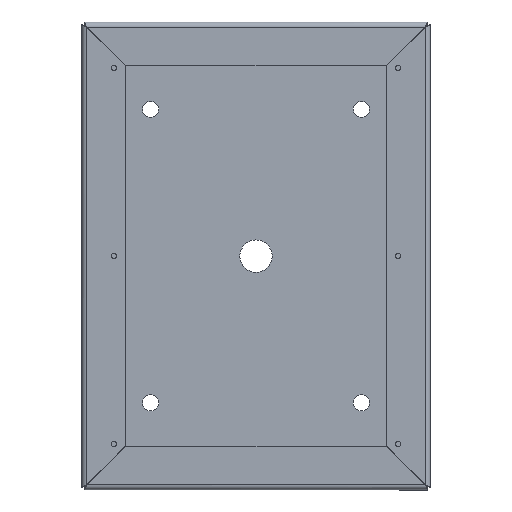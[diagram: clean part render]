
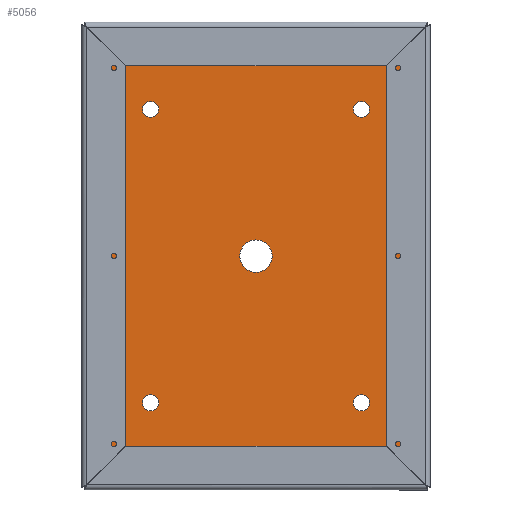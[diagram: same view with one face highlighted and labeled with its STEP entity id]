
A CAD part, top view. The second image highlights one B-rep face of the part: STEP entity #5056.
In plain terms, the highlighted planar face has unit normal (0, 0, 1).
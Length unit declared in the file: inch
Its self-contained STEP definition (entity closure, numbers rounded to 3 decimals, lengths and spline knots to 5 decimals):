
#50 = VERTEX_POINT ( 'NONE', #3202 ) ;
#94 = CARTESIAN_POINT ( 'NONE',  ( 0.44, 0., 0.0625 ) ) ;
#121 = AXIS2_PLACEMENT_3D ( 'NONE', #450, #939, #4766 ) ;
#172 = VERTEX_POINT ( 'NONE', #2390 ) ;
#174 = EDGE_LOOP ( 'NONE', ( #3799, #924 ) ) ;
#224 = CIRCLE ( 'NONE', #121, 0.22 ) ;
#276 = EDGE_LOOP ( 'NONE', ( #4947, #4587 ) ) ;
#345 = DIRECTION ( 'NONE',  ( -1., 0., 0. ) ) ;
#356 = PLANE ( 'NONE',  #651 ) ;
#450 = CARTESIAN_POINT ( 'NONE',  ( 2.875, 4., 0.0625 ) ) ;
#487 = EDGE_CURVE ( 'NONE', #172, #3732, #5059, .T. ) ;
#551 = CIRCLE ( 'NONE', #5106, 0.22 ) ;
#651 = AXIS2_PLACEMENT_3D ( 'NONE', #2843, #876, #1825 ) ;
#719 = DIRECTION ( 'NONE',  ( 1., 0., 0. ) ) ;
#721 = VERTEX_POINT ( 'NONE', #4288 ) ;
#808 = EDGE_CURVE ( 'NONE', #5010, #50, #5077, .T. ) ;
#810 = DIRECTION ( 'NONE',  ( -1., 0., 0. ) ) ;
#825 = EDGE_LOOP ( 'NONE', ( #3161, #5807 ) ) ;
#845 = CIRCLE ( 'NONE', #2832, 0.22 ) ;
#856 = DIRECTION ( 'NONE',  ( 0., 0., -1. ) ) ;
#876 = DIRECTION ( 'NONE',  ( 0., 0., -1. ) ) ;
#888 = DIRECTION ( 'NONE',  ( -1., 0., 0. ) ) ;
#910 = FACE_BOUND ( 'NONE', #174, .T. ) ;
#924 = ORIENTED_EDGE ( 'NONE', *, *, #3455, .T. ) ;
#939 = DIRECTION ( 'NONE',  ( 0., 0., -1. ) ) ;
#954 = AXIS2_PLACEMENT_3D ( 'NONE', #6408, #2894, #2491 ) ;
#1051 = CARTESIAN_POINT ( 'NONE',  ( 0., 0., 0.0625 ) ) ;
#1220 = LINE ( 'NONE', #3204, #6326 ) ;
#1237 = CARTESIAN_POINT ( 'NONE',  ( 0., 0., 0.0625 ) ) ;
#1253 = DIRECTION ( 'NONE',  ( 0., 0., -1. ) ) ;
#1271 = ORIENTED_EDGE ( 'NONE', *, *, #1396, .T. ) ;
#1287 = CARTESIAN_POINT ( 'NONE',  ( 2.875, 4., 0.0625 ) ) ;
#1316 = DIRECTION ( 'NONE',  ( 0., 1., 0. ) ) ;
#1396 = EDGE_CURVE ( 'NONE', #3732, #2956, #1220, .T. ) ;
#1469 = AXIS2_PLACEMENT_3D ( 'NONE', #5915, #5454, #3518 ) ;
#1572 = VERTEX_POINT ( 'NONE', #94 ) ;
#1615 = CARTESIAN_POINT ( 'NONE',  ( -2.655, -4., 0.0625 ) ) ;
#1666 = LINE ( 'NONE', #2661, #2520 ) ;
#1683 = DIRECTION ( 'NONE',  ( -1., 0., 0. ) ) ;
#1725 = CARTESIAN_POINT ( 'NONE',  ( 2.655, -4., 0.0625 ) ) ;
#1797 = AXIS2_PLACEMENT_3D ( 'NONE', #1051, #3040, #3009 ) ;
#1825 = DIRECTION ( 'NONE',  ( -1., 0., 0. ) ) ;
#1985 = VECTOR ( 'NONE', #4902, 39.37008 ) ;
#2052 = EDGE_CURVE ( 'NONE', #4921, #5143, #845, .T. ) ;
#2221 = DIRECTION ( 'NONE',  ( -1., 0., 0. ) ) ;
#2228 = ORIENTED_EDGE ( 'NONE', *, *, #487, .T. ) ;
#2390 = CARTESIAN_POINT ( 'NONE',  ( -4.6128, 6.2378, 0.0625 ) ) ;
#2430 = EDGE_CURVE ( 'NONE', #50, #5010, #4180, .T. ) ;
#2477 = CARTESIAN_POINT ( 'NONE',  ( -3.095, 4., 0.0625 ) ) ;
#2491 = DIRECTION ( 'NONE',  ( -1., 0., 0. ) ) ;
#2520 = VECTOR ( 'NONE', #1316, 39.37008 ) ;
#2584 = DIRECTION ( 'NONE',  ( 0., -1., 0. ) ) ;
#2661 = CARTESIAN_POINT ( 'NONE',  ( 4.6128, -6.375, 0.0625 ) ) ;
#2707 = DIRECTION ( 'NONE',  ( 0., 0., -1. ) ) ;
#2716 = CARTESIAN_POINT ( 'NONE',  ( -2.655, 4., 0.0625 ) ) ;
#2773 = ORIENTED_EDGE ( 'NONE', *, *, #2052, .T. ) ;
#2832 = AXIS2_PLACEMENT_3D ( 'NONE', #5810, #3287, #345 ) ;
#2843 = CARTESIAN_POINT ( 'NONE',  ( -4.75, 6.375, 0.0625 ) ) ;
#2892 = ORIENTED_EDGE ( 'NONE', *, *, #3679, .T. ) ;
#2894 = DIRECTION ( 'NONE',  ( 0., 0., -1. ) ) ;
#2956 = VERTEX_POINT ( 'NONE', #3191 ) ;
#2981 = CARTESIAN_POINT ( 'NONE',  ( -2.875, 4., 0.0625 ) ) ;
#3007 = EDGE_CURVE ( 'NONE', #5175, #1572, #3364, .T. ) ;
#3009 = DIRECTION ( 'NONE',  ( -1., 0., 0. ) ) ;
#3040 = DIRECTION ( 'NONE',  ( 0., 0., -1. ) ) ;
#3050 = VERTEX_POINT ( 'NONE', #4601 ) ;
#3108 = CARTESIAN_POINT ( 'NONE',  ( 2.655, 4., 0.0625 ) ) ;
#3161 = ORIENTED_EDGE ( 'NONE', *, *, #4046, .T. ) ;
#3191 = CARTESIAN_POINT ( 'NONE',  ( 4.6128, -6.2378, 0.0625 ) ) ;
#3202 = CARTESIAN_POINT ( 'NONE',  ( 3.095, -4., 0.0625 ) ) ;
#3204 = CARTESIAN_POINT ( 'NONE',  ( -4.75, -6.2378, 0.0625 ) ) ;
#3240 = DIRECTION ( 'NONE',  ( -1., 0., 0. ) ) ;
#3244 = ORIENTED_EDGE ( 'NONE', *, *, #3315, .T. ) ;
#3287 = DIRECTION ( 'NONE',  ( 0., 0., -1. ) ) ;
#3315 = EDGE_CURVE ( 'NONE', #5143, #4921, #551, .T. ) ;
#3364 = CIRCLE ( 'NONE', #3774, 0.44 ) ;
#3455 = EDGE_CURVE ( 'NONE', #1572, #5175, #3782, .T. ) ;
#3518 = DIRECTION ( 'NONE',  ( -1., 0., 0. ) ) ;
#3542 = VECTOR ( 'NONE', #2584, 39.37008 ) ;
#3568 = EDGE_CURVE ( 'NONE', #2956, #6412, #1666, .T. ) ;
#3603 = EDGE_LOOP ( 'NONE', ( #1271, #4596, #2892, #2228 ) ) ;
#3679 = EDGE_CURVE ( 'NONE', #6412, #172, #5867, .T. ) ;
#3722 = CARTESIAN_POINT ( 'NONE',  ( -2.875, -4., 0.0625 ) ) ;
#3732 = VERTEX_POINT ( 'NONE', #3854 ) ;
#3774 = AXIS2_PLACEMENT_3D ( 'NONE', #1237, #2707, #2221 ) ;
#3782 = CIRCLE ( 'NONE', #1797, 0.44 ) ;
#3799 = ORIENTED_EDGE ( 'NONE', *, *, #3007, .T. ) ;
#3854 = CARTESIAN_POINT ( 'NONE',  ( -4.6128, -6.2378, 0.0625 ) ) ;
#3923 = ORIENTED_EDGE ( 'NONE', *, *, #4269, .T. ) ;
#3942 = FACE_BOUND ( 'NONE', #276, .T. ) ;
#4046 = EDGE_CURVE ( 'NONE', #4625, #3050, #224, .T. ) ;
#4088 = CIRCLE ( 'NONE', #4901, 0.22 ) ;
#4098 = DIRECTION ( 'NONE',  ( 0., 0., -1. ) ) ;
#4159 = CARTESIAN_POINT ( 'NONE',  ( -2.875, -4., 0.0625 ) ) ;
#4168 = CARTESIAN_POINT ( 'NONE',  ( -4.6128, 6.375, 0.0625 ) ) ;
#4180 = CIRCLE ( 'NONE', #954, 0.22 ) ;
#4269 = EDGE_CURVE ( 'NONE', #4604, #721, #5098, .T. ) ;
#4288 = CARTESIAN_POINT ( 'NONE',  ( -3.095, -4., 0.0625 ) ) ;
#4587 = ORIENTED_EDGE ( 'NONE', *, *, #2430, .T. ) ;
#4596 = ORIENTED_EDGE ( 'NONE', *, *, #3568, .T. ) ;
#4601 = CARTESIAN_POINT ( 'NONE',  ( 3.095, 4., 0.0625 ) ) ;
#4604 = VERTEX_POINT ( 'NONE', #1615 ) ;
#4625 = VERTEX_POINT ( 'NONE', #3108 ) ;
#4766 = DIRECTION ( 'NONE',  ( -1., 0., 0. ) ) ;
#4832 = CIRCLE ( 'NONE', #6281, 0.22 ) ;
#4896 = FACE_OUTER_BOUND ( 'NONE', #3603, .T. ) ;
#4901 = AXIS2_PLACEMENT_3D ( 'NONE', #3722, #5692, #810 ) ;
#4902 = DIRECTION ( 'NONE',  ( -1., 0., 0. ) ) ;
#4921 = VERTEX_POINT ( 'NONE', #2716 ) ;
#4947 = ORIENTED_EDGE ( 'NONE', *, *, #808, .T. ) ;
#5010 = VERTEX_POINT ( 'NONE', #1725 ) ;
#5022 = EDGE_CURVE ( 'NONE', #721, #4604, #4088, .T. ) ;
#5056 = ADVANCED_FACE ( 'NONE', ( #5862, #3942, #5331, #5391, #910, #4896 ), #356, .F. ) ;
#5059 = LINE ( 'NONE', #4168, #3542 ) ;
#5075 = EDGE_LOOP ( 'NONE', ( #3244, #2773 ) ) ;
#5077 = CIRCLE ( 'NONE', #1469, 0.22 ) ;
#5098 = CIRCLE ( 'NONE', #6239, 0.22 ) ;
#5106 = AXIS2_PLACEMENT_3D ( 'NONE', #2981, #856, #888 ) ;
#5113 = EDGE_LOOP ( 'NONE', ( #5676, #3923 ) ) ;
#5143 = VERTEX_POINT ( 'NONE', #2477 ) ;
#5175 = VERTEX_POINT ( 'NONE', #5954 ) ;
#5218 = CARTESIAN_POINT ( 'NONE',  ( 4.6128, 6.2378, 0.0625 ) ) ;
#5331 = FACE_BOUND ( 'NONE', #825, .T. ) ;
#5391 = FACE_BOUND ( 'NONE', #5075, .T. ) ;
#5454 = DIRECTION ( 'NONE',  ( 0., 0., -1. ) ) ;
#5676 = ORIENTED_EDGE ( 'NONE', *, *, #5022, .T. ) ;
#5692 = DIRECTION ( 'NONE',  ( 0., 0., -1. ) ) ;
#5807 = ORIENTED_EDGE ( 'NONE', *, *, #5957, .T. ) ;
#5810 = CARTESIAN_POINT ( 'NONE',  ( -2.875, 4., 0.0625 ) ) ;
#5862 = FACE_BOUND ( 'NONE', #5113, .T. ) ;
#5867 = LINE ( 'NONE', #5924, #1985 ) ;
#5915 = CARTESIAN_POINT ( 'NONE',  ( 2.875, -4., 0.0625 ) ) ;
#5924 = CARTESIAN_POINT ( 'NONE',  ( 68.5, 6.2378, 0.0625 ) ) ;
#5954 = CARTESIAN_POINT ( 'NONE',  ( -0.44, 0., 0.0625 ) ) ;
#5957 = EDGE_CURVE ( 'NONE', #3050, #4625, #4832, .T. ) ;
#6239 = AXIS2_PLACEMENT_3D ( 'NONE', #4159, #4098, #1683 ) ;
#6281 = AXIS2_PLACEMENT_3D ( 'NONE', #1287, #1253, #3240 ) ;
#6326 = VECTOR ( 'NONE', #719, 39.37008 ) ;
#6408 = CARTESIAN_POINT ( 'NONE',  ( 2.875, -4., 0.0625 ) ) ;
#6412 = VERTEX_POINT ( 'NONE', #5218 ) ;
